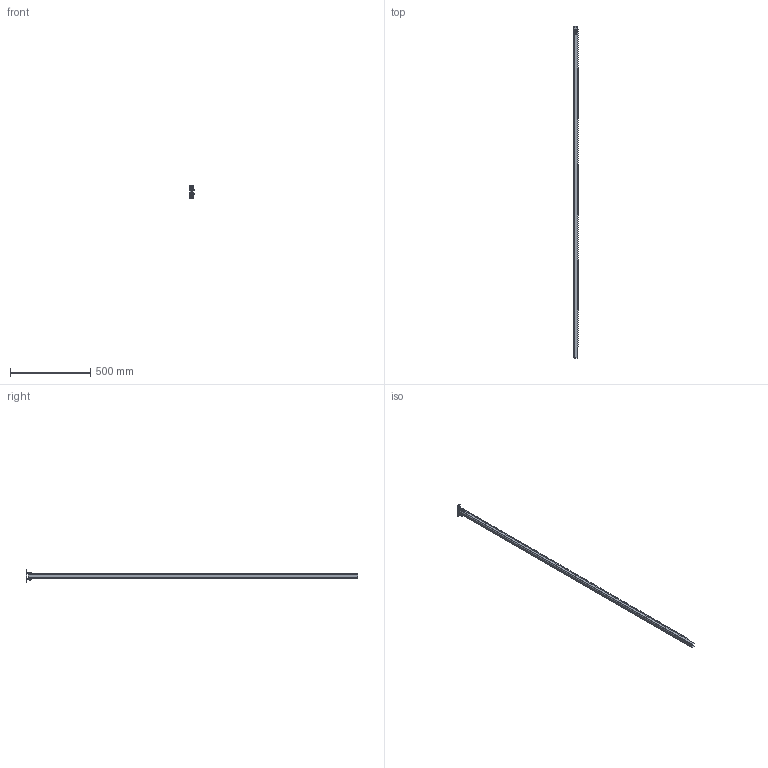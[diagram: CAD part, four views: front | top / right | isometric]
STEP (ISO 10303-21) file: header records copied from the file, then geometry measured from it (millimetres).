
FILE_DESCRIPTION (( 'STEP AP214' ), '1' );
FILE_NAME ('Zahnstange_10177215.STEP', '2018-12-11T12:12:25', ( '' ), ( '' ), 'SwSTEP 2.0', 'SolidWorks 2018', '' );
FILE_SCHEMA (( 'AUTOMOTIVE_DESIGN' ));
Length unit declared in the file: millimetre
Products named in the file (6): Mutter_10001793_Standard; Schraube_10148565_ISO 4017 - M6 x 50-N; Zahnstange_10177215; Montageplatte_10140229_Standard; Zahnstange_10047713_Standard; Montageplatte_10148566_Standard
Assembly tree (5 placements, depth 3):
  Zahnstange_10177215
    Montageplatte_10148566_Standard
      Montageplatte_10140229_Standard
      Schraube_10148565_ISO 4017 - M6 x 50-N
      Mutter_10001793_Standard
    Zahnstange_10047713_Standard
Bounding box: 30 x 2064 x 85 mm (x, y, z)
Volume: 427367.2 mm3; surface area: 307672.2 mm2
Topology: 4 solids, 4 shells, 1510 faces, 4442 edges, 2950 vertices
Faces by surface type: plane 1397, cylinder 87, cone 20, torus 6
Entity records: 49684 total; most frequent: CARTESIAN_POINT 9091, ORIENTED_EDGE 8884, DIRECTION 7654, EDGE_CURVE 4442, LINE 4196, VECTOR 4196, VERTEX_POINT 2950, AXIS2_PLACEMENT_3D 1729
